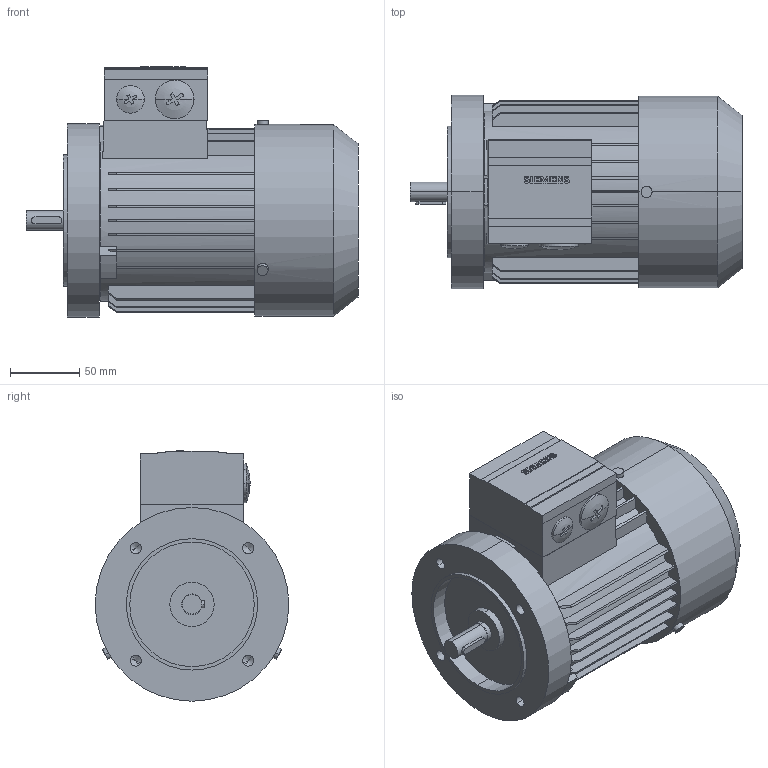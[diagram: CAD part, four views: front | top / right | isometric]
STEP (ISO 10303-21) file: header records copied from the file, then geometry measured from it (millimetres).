
FILE_DESCRIPTION(('no description'),'unknown implementation level');
FILE_NAME('1LA7073-4AB13_3D_3dc04545519c0d64366ed56b84e7754d.STP',' ',('SIEMENS A&D'),('CADClick - KiM GmbH - www.kimweb.de'),'unknown preprocess','ACIS','unknown authorization');
FILE_SCHEMA(('automotive_design'));
Length unit declared in the file: millimetre
Products named in the file (1): 1
Bounding box: 240 x 140 x 181 mm (x, y, z)
Volume: 2946091.6 mm3; surface area: 186521.1 mm2
Topology: 1 solids, 1 shells, 368 faces, 1027 edges, 676 vertices
Faces by surface type: plane 207, cylinder 119, cone 38, sphere 4
Entity records: 23541 total; most frequent: CARTESIAN_POINT 2543, STYLED_ITEM 2064, PRESENTATION_STYLE_ASSIGNMENT 2064, COLOUR_RGB 2064, ORIENTED_EDGE 2038, DIRECTION 2014, EDGE_CURVE 1019, CURVE_STYLE 1019
